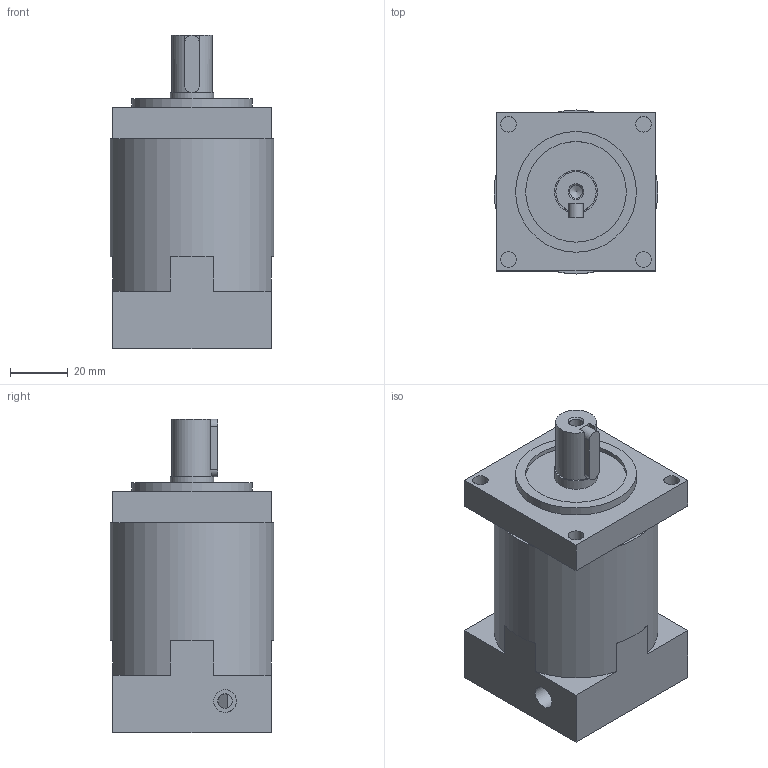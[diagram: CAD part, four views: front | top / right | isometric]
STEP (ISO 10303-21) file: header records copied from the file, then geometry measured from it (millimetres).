
FILE_DESCRIPTION(('STEP AP214'), '1');
FILE_NAME('Ðåäóêòîð ïëàíåòàðíûé 57PX6K-14S', '', ('UNSPECIFIED'), ('UNSPECIFIED'), 'C3D Converter', 'C3D Toolkit', '');
FILE_SCHEMA(('AUTOMOTIVE_DESIGN { 1 0 10303 214 3 1 1}'));
Length unit declared in the file: millimetre
Bounding box: 57 x 57 x 109 mm (x, y, z)
Volume: 218052.2 mm3; surface area: 32533.4 mm2
Topology: 1 solids, 1 shells, 78 faces, 182 edges, 114 vertices
Faces by surface type: plane 44, cylinder 24, cone 10
Full cylindrical faces by diameter (mm): 4.459 x5, 5 x2, 5.4 x4, 8 x2, 14 x2, 15 x1, 35 x1, 38 x1, 42 x1, 57 x1
Entity records: 3232 total; most frequent: CARTESIAN_POINT 866, DIRECTION 367, ORIENTED_EDGE 296, EDGE_CURVE 148, AXIS2_PLACEMENT_3D 146, EDGE_LOOP 129, VERTEX_POINT 109, COLOUR_RGB 79
